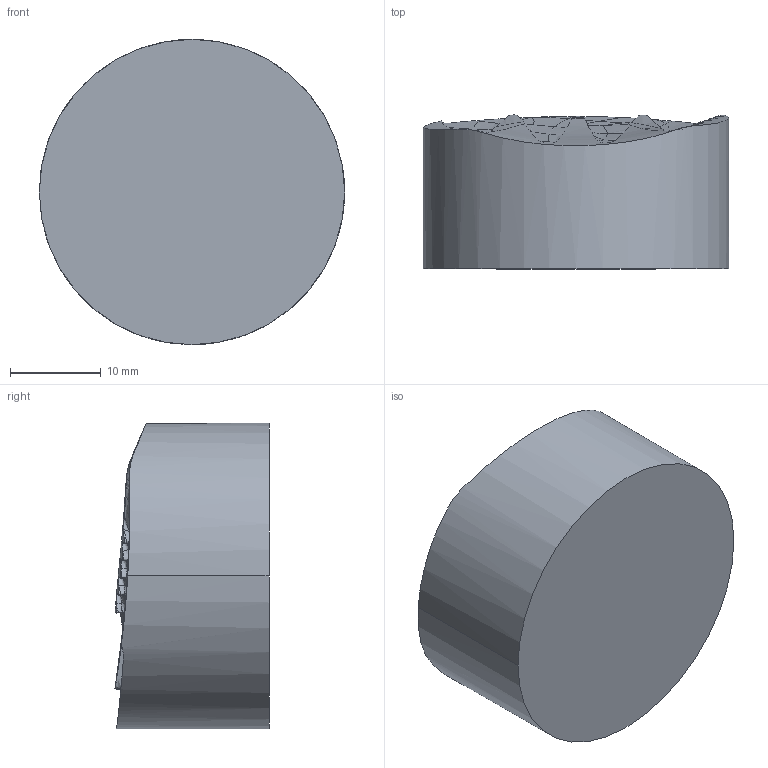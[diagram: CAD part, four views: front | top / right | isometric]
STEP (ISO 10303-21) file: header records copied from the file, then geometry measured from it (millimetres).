
FILE_DESCRIPTION(('CATIA V5 STEP Exchange'),'2;1');
FILE_NAME('C:\Documents and Settings\bran\Desktop\fest\test.stp','2010-08-06T11:52:04+00:00',('none'),('none'),'CATIA Version 5 Release 18 GA (IN-10)','CATIA V5 STEP AP203','none');
FILE_SCHEMA(('CONFIG_CONTROL_DESIGN'));
Products named in the file (1): Starre Formhaelfte 
Bounding box: 33.68 x 16.99 x 33.68 mm (x, y, z)
Volume: 13387.1 mm3; surface area: 3609.4 mm2
Topology: 1 solids, 1 shells, 242 faces, 672 edges, 418 vertices
Faces by surface type: bspline 233, cylinder 6, plane 2, torus 1
Entity records: 46144 total; most frequent: CARTESIAN_POINT 42054, ORIENTED_EDGE 1316, EDGE_CURVE 658, B_SPLINE_CURVE_WITH_KNOTS 652, VERTEX_POINT 418, ADVANCED_FACE 242, EDGE_LOOP 242, FACE_OUTER_BOUND 242
